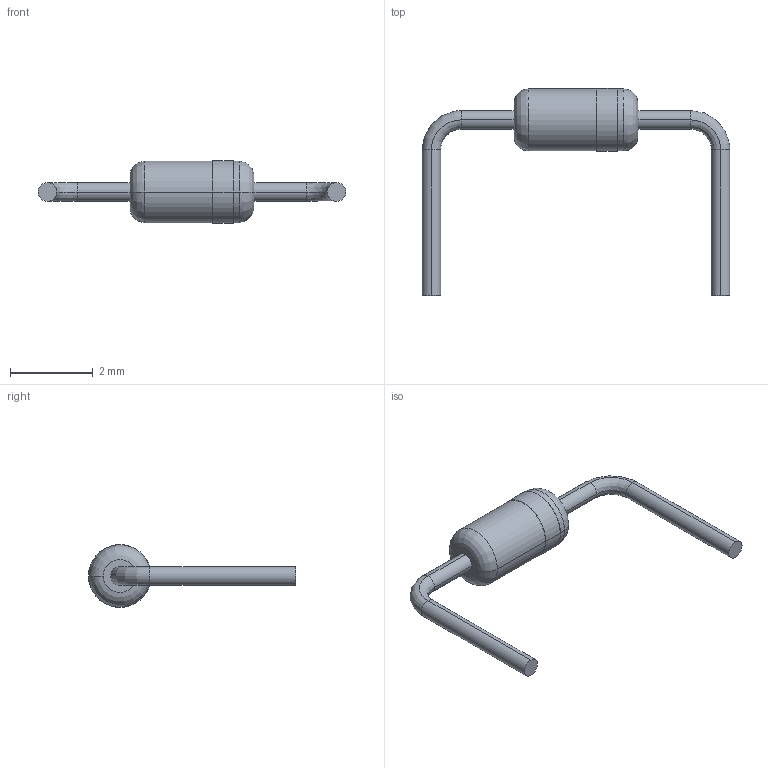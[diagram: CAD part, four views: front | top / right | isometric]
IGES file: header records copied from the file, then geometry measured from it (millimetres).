
Start section:  PTC IGES file: do35-h_p7_d1-5_l3.igs
Global section: file name: do35-h_p7_d1-5_l3.igs; native system: Pro/ENGINEER by Parametric Technology Corporation; preprocessor: 2004440; author: Dragos; organization: Unknown; date: 190211.200141; units: millimetre
Bounding box: 7.45 x 5.01 x 1.52 mm (x, y, z)
Volume: 7 mm3; surface area: 33.1 mm2
Topology: 1 solids, 1 shells, 28 faces, 56 edges, 36 vertices
Faces by surface type: revolution 22, bspline 6
